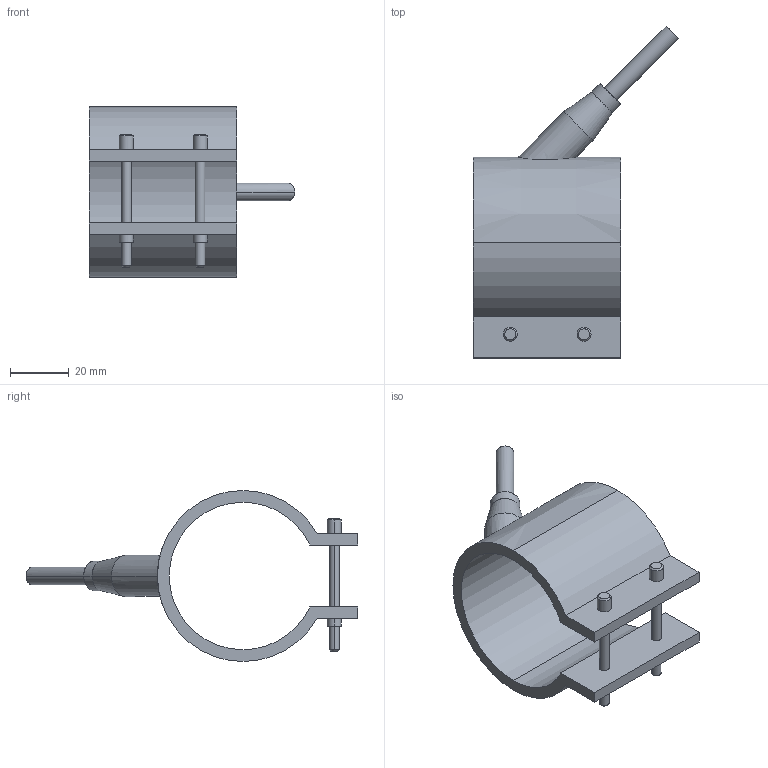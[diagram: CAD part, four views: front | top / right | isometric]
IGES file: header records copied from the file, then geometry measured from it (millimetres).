
Start section: START RECORD GO HERE.
Global section: file name: 29050050.igs; native system: DASSAULT SYSTEMES CATIA V5 R20 - www.3ds.com; preprocessor: CATIA Version 5 Release 20 ; author: Utente; organization: NB04-ASUS; date: 20210327.104048; units: millimetre
Bounding box: 69.55 x 112.55 x 58 mm (x, y, z)
Surface area: 21628.4 mm2 (no closed solid volume)
Topology: 0 solids, 0 shells, 54 faces, 248 edges, 248 vertices
Faces by surface type: revolution 38, plane 16
